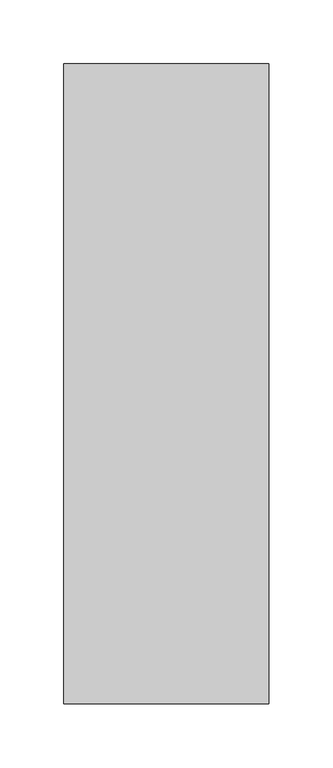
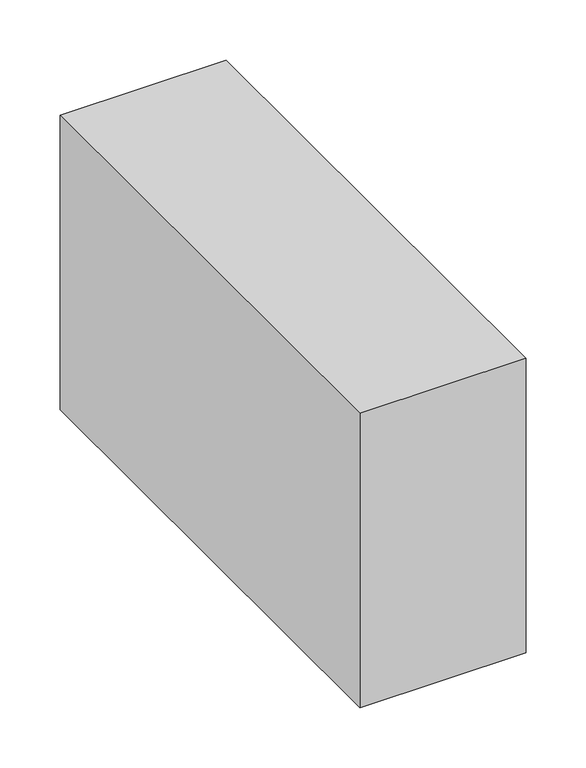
"""IFC4 building model written with IfcOpenShell, lengths in millimetres: damper geometry, КлапанОбратный_Прямоугольный_KIO : КлапанОбратный_Прямоугольный_KIO."""

from ifc_helpers import new_model, si_unit, frame, origin, place, context, project, spatial, polyline, outline, extrude, source, transform, mapped, element, save


def damper_9898ae58(model_context):
    return source(origin(), model_context, "Body", "SweptSolid", [
        extrude(outline(polyline([(80.0, 250.0), (80.0, -250.0), (-80.0, -250.0), (-80.0, 250.0), (80.0, 250.0)])), frame((0.0, 0.0, -150.0), z_axis=(0.0, 0.0, 1.0), x_axis=(1.0, 0.0, 0.0)), (0.0, 0.0, 1.0), 300.0),
    ])


if __name__ == "__main__":
    model = new_model("IFC4")
    model_context = context("Model", 3, world=origin())
    ifc_project = project(units=[si_unit("LENGTHUNIT", "METRE", prefix="MILLI")], contexts=[model_context])
    site = spatial("IfcSite", under=ifc_project)
    building = spatial("IfcBuilding", under=site)
    placement = place(None, origin())
    damper_shape = damper_9898ae58(model_context)
    element("IfcDamper", 1, ObjectType="КлапанОбратный_Прямоугольный_KIO : КлапанОбратный_Прямоугольный_KIO", at=placement, inside=building, context=model_context, shape_type="MappedRepresentation", body=[
        mapped(damper_shape, transform((0.0, 0.0, 0.0), x_axis=(1.0, 0.0, 0.0), y_axis=(0.0, 1.0, 0.0), z_axis=(0.0, 0.0, 1.0))),
    ])
    save(model, "model.ifc")
